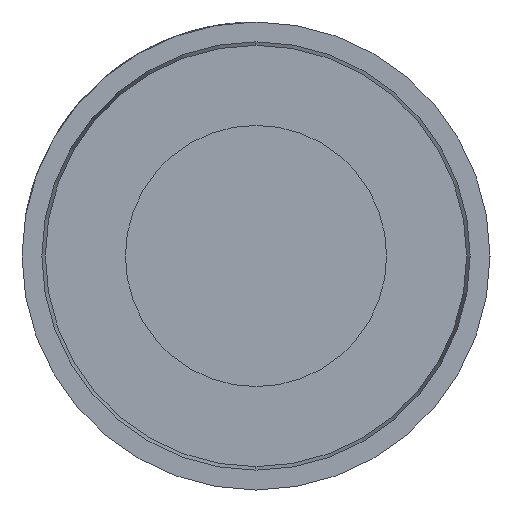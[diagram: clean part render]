
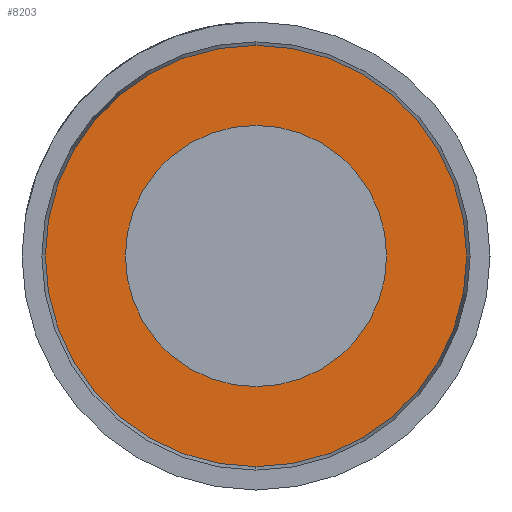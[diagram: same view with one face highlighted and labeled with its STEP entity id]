
A CAD part, left-side view. The second image highlights one B-rep face of the part: STEP entity #8203.
In plain terms, the highlighted planar face has unit normal (-1, 0, 0).
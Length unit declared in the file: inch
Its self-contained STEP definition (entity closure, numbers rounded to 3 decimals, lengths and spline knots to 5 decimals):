
#206 = VERTEX_POINT ( 'NONE', #3221 ) ;
#1808 = EDGE_CURVE ( 'NONE', #16808, #13019, #5007, .T. ) ;
#1946 = ORIENTED_EDGE ( 'NONE', *, *, #6596, .T. ) ;
#2201 = DIRECTION ( 'NONE',  ( 0., 0., 1. ) ) ;
#2490 = CIRCLE ( 'NONE', #21366, 0.06975 ) ;
#2544 = DIRECTION ( 'NONE',  ( -1., 0., 0. ) ) ;
#2685 = CARTESIAN_POINT ( 'NONE',  ( 0., 0., 0. ) ) ;
#2794 = CARTESIAN_POINT ( 'NONE',  ( 0., 0., 0. ) ) ;
#2804 = VERTEX_POINT ( 'NONE', #14143 ) ;
#2850 = DIRECTION ( 'NONE',  ( 0., 0., 1. ) ) ;
#3221 = CARTESIAN_POINT ( 'NONE',  ( 0., 0., -0.1125 ) ) ;
#4404 = EDGE_CURVE ( 'NONE', #13019, #16808, #2490, .T. ) ;
#4908 = DIRECTION ( 'NONE',  ( 0., 0., 1. ) ) ;
#5007 = CIRCLE ( 'NONE', #17481, 0.06975 ) ;
#6449 = FACE_OUTER_BOUND ( 'NONE', #14559, .T. ) ;
#6596 = EDGE_CURVE ( 'NONE', #206, #2804, #13072, .T. ) ;
#7375 = ORIENTED_EDGE ( 'NONE', *, *, #8408, .T. ) ;
#8203 = ADVANCED_FACE ( 'NONE', ( #21524, #6449 ), #11364, .F. ) ;
#8400 = CARTESIAN_POINT ( 'NONE',  ( 0., 0., -0.06975 ) ) ;
#8408 = EDGE_CURVE ( 'NONE', #2804, #206, #15015, .T. ) ;
#9571 = DIRECTION ( 'NONE',  ( 1., 0., 0. ) ) ;
#9859 = CARTESIAN_POINT ( 'NONE',  ( 0., 0., 0. ) ) ;
#9870 = ORIENTED_EDGE ( 'NONE', *, *, #4404, .F. ) ;
#10346 = DIRECTION ( 'NONE',  ( -1., 0., 0. ) ) ;
#10976 = CARTESIAN_POINT ( 'NONE',  ( 0., 0., 0.06975 ) ) ;
#11044 = AXIS2_PLACEMENT_3D ( 'NONE', #17620, #2544, #2201 ) ;
#11364 = PLANE ( 'NONE',  #12486 ) ;
#12346 = AXIS2_PLACEMENT_3D ( 'NONE', #2685, #13167, #16403 ) ;
#12486 = AXIS2_PLACEMENT_3D ( 'NONE', #2794, #9571, #16407 ) ;
#13019 = VERTEX_POINT ( 'NONE', #10976 ) ;
#13072 = CIRCLE ( 'NONE', #12346, 0.1125 ) ;
#13167 = DIRECTION ( 'NONE',  ( -1., 0., 0. ) ) ;
#13607 = CARTESIAN_POINT ( 'NONE',  ( 0., 0., 0. ) ) ;
#14143 = CARTESIAN_POINT ( 'NONE',  ( 0., 0., 0.1125 ) ) ;
#14559 = EDGE_LOOP ( 'NONE', ( #7375, #1946 ) ) ;
#15015 = CIRCLE ( 'NONE', #11044, 0.1125 ) ;
#16403 = DIRECTION ( 'NONE',  ( 0., 0., 1. ) ) ;
#16407 = DIRECTION ( 'NONE',  ( 0., 0., -1. ) ) ;
#16808 = VERTEX_POINT ( 'NONE', #8400 ) ;
#17481 = AXIS2_PLACEMENT_3D ( 'NONE', #9859, #19698, #2850 ) ;
#17620 = CARTESIAN_POINT ( 'NONE',  ( 0., 0., 0. ) ) ;
#18024 = ORIENTED_EDGE ( 'NONE', *, *, #1808, .F. ) ;
#19698 = DIRECTION ( 'NONE',  ( -1., 0., 0. ) ) ;
#20603 = EDGE_LOOP ( 'NONE', ( #9870, #18024 ) ) ;
#21366 = AXIS2_PLACEMENT_3D ( 'NONE', #13607, #10346, #4908 ) ;
#21524 = FACE_BOUND ( 'NONE', #20603, .T. ) ;
